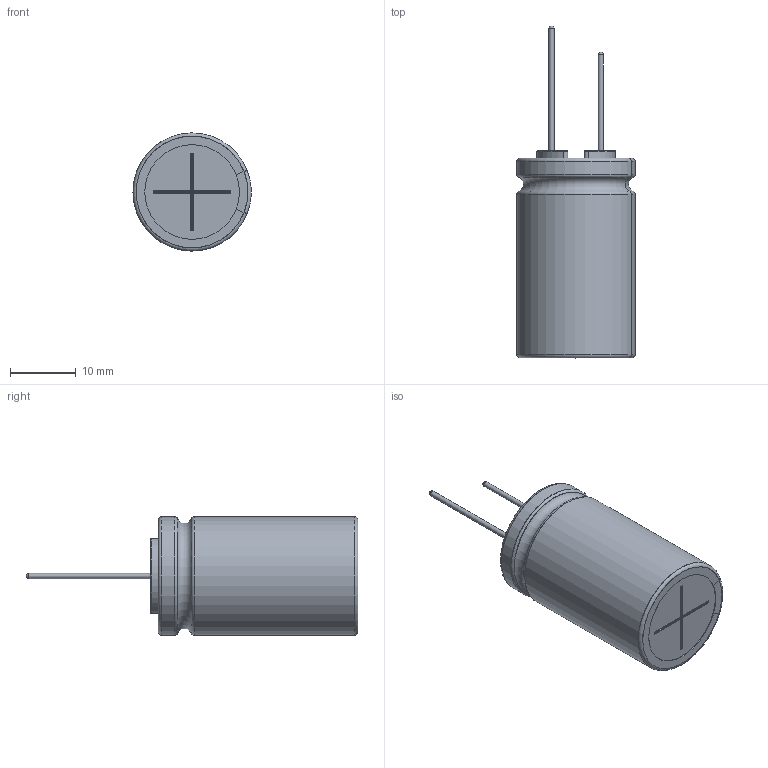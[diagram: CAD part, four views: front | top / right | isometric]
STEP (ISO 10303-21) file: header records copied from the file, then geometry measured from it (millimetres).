
FILE_DESCRIPTION(/* description */ (''),/* implementation_level */ '2;1');
FILE_NAME(/* name */ '18x31.5_Lead.stp',/* time_stamp */ '2017-09-05T14:56:33+09:00',/* author */ (''),/* organization */ (''),/* preprocessor_version */ 'ST-DEVELOPER v16',/* originating_system */ 'SIEMENS PLM Software NX 11.0',/* authorisation */ '');
FILE_SCHEMA (('AUTOMOTIVE_DESIGN { 1 0 10303 214 3 1 1 1 }'));
Length unit declared in the file: millimetre
Products named in the file (1): 18x31.5_Lead_0
Bounding box: 17.97 x 50.5 x 18 mm (x, y, z)
Volume: 7693.9 mm3; surface area: 6174 mm2
Topology: 3 solids, 3 shells, 132 faces, 328 edges, 205 vertices
Faces by surface type: cylinder 50, torus 35, plane 33, sphere 6, bspline 6, extrusion 2
Full cylindrical faces by diameter (mm): 0.8 x2, 17.8 x2
Entity records: 4908 total; most frequent: CARTESIAN_POINT 1353, DIRECTION 748, ORIENTED_EDGE 624, EDGE_CURVE 312, AXIS2_PLACEMENT_3D 311, VERTEX_POINT 200, CIRCLE 174, EDGE_LOOP 146
